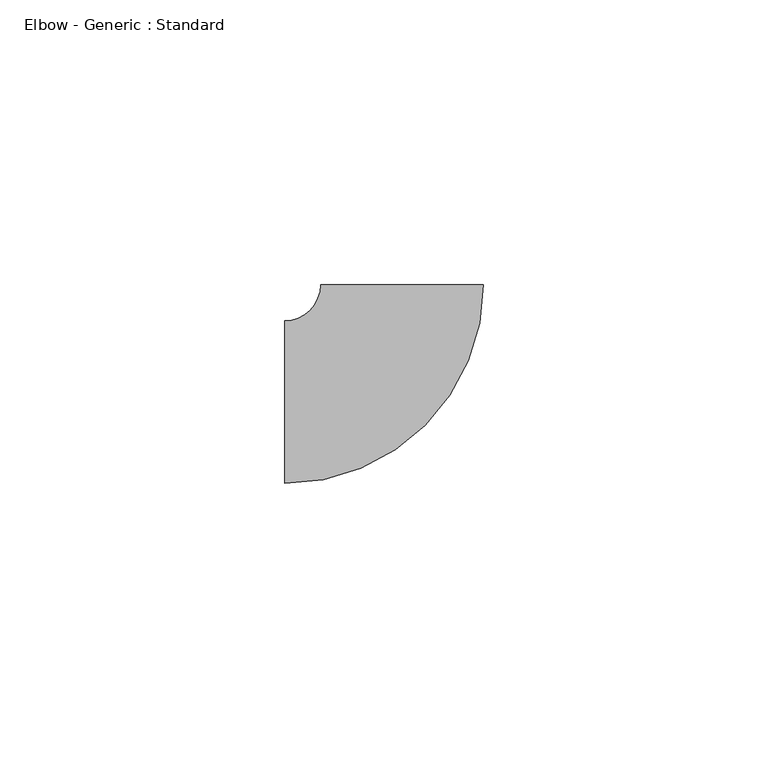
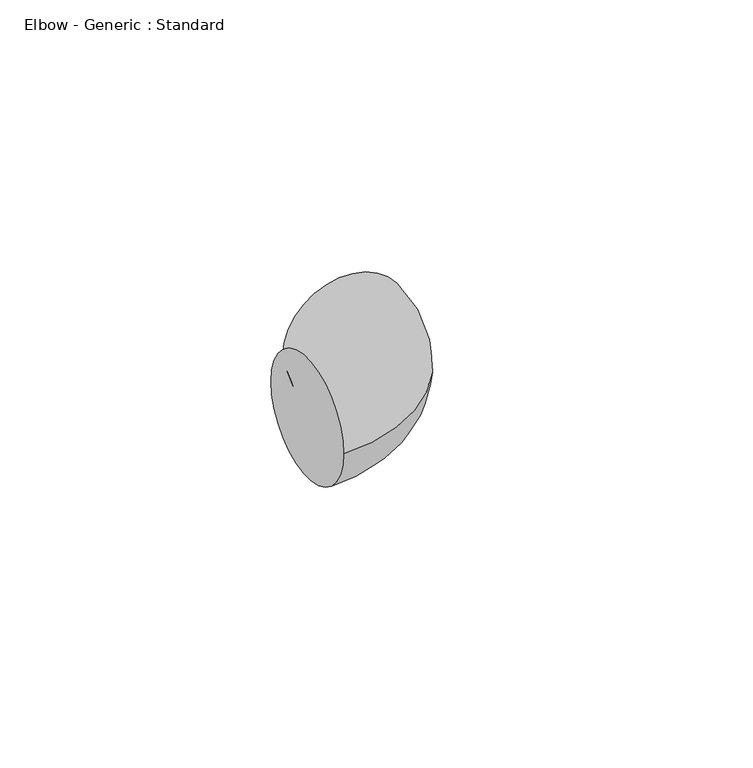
"""IFC4 building model written with IfcOpenShell, lengths in millimetres: pipe fitting geometry, Elbow - Generic : Standard."""

from ifc_helpers import new_model, si_unit, point, frame, origin, place, context, project, spatial, circle_curve, ellipse_curve, trimmed, source, transform, mapped, element, save
from ifc_brep_helpers import plane_surface, revolved_surface, advanced_brep


def elbow_generic_standard_3179f303(model_context):
    return source(origin(), model_context, "Body", "AdvancedBrep", [
        advanced_brep(
        [(-20.6418645, -14.2875, 0.0), (-20.6418645, 14.2875, 0.0), (14.2831347, 20.6448853, 0.0), (-14.2918646, 20.6388428, 0.0)],
        [
            (0, 1, circle_curve(frame((-20.6418645, 0.0, 0.0), z_axis=(-1.0, 0.0, 0.0), x_axis=(0.0, 1.0, 0.0)), 14.2875)),
            (1, 0, circle_curve(frame((-20.6418645, 0.0, 0.0), z_axis=(-1.0, 0.0, 0.0), x_axis=(0.0, 1.0, 0.0)), 14.2875)),
            (2, 3, circle_curve(frame((-0.0043649, 20.641864, 0.0), z_axis=(-0.00021146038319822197, 0.9999999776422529, 0.0), x_axis=(-0.9999999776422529, -0.00021146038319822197, 0.0)), 14.2875)),
            (3, 2, circle_curve(frame((-0.0043649, 20.641864, 0.0), z_axis=(-0.00021146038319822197, 0.9999999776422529, 0.0), x_axis=(-0.9999999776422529, -0.00021146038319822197, 0.0)), 14.2875)),
            (3, 1, circle_curve(frame((-20.6418645, 20.6375, 0.0), z_axis=(0.0, 0.0, -1.0), x_axis=(0.0, -1.0, 0.0)), 6.35)),
            (0, 2, circle_curve(frame((-20.6418645, 20.6375, 0.0), z_axis=(0.0, 0.0, 1.0), x_axis=(0.0, -1.0, 0.0)), 34.925)),
        ],
        [
            plane_surface(frame((-20.6418645, 0.0, 0.0), z_axis=(-1.0, 0.0, 0.0), x_axis=(0.0, 0.0, 1.0))),
            plane_surface(frame((-0.0043649, 20.641864, 0.0), z_axis=(-0.00021146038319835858, 0.999999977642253, 0.0), x_axis=(0.0, 0.0, 1.0))),
            revolved_surface(trimmed(ellipse_curve(frame((-20.6418645, 0.0, 0.0), z_axis=(-1.0, 0.0, 0.0), x_axis=(0.0, 1.0, 0.0)), 14.2875, 14.2875), [point((-20.6418645, -14.2875, 0.0))], [point((-20.6418645, 14.2875, 0.0))], True, "CARTESIAN"), (-20.6418645, 20.6375, 0.0), (0.0, 0.0, 1.0)),
            revolved_surface(trimmed(ellipse_curve(frame((-20.6418645, 0.0, 0.0), z_axis=(-1.0, 0.0, 0.0), x_axis=(0.0, 1.0, 0.0)), 14.2875, 14.2875), [point((-20.6418645, 14.2875, 0.0))], [point((-20.6418645, -14.2875, 0.0))], True, "CARTESIAN"), (-20.6418645, 20.6375, 0.0), (0.0, 0.0, 1.0)),
        ],
        [
            (0, [[1, 2]]),
            (1, [[3, 4]]),
            (2, [[5, -1, 6, -4]]),
            (3, [[-6, -2, -5, -3]]),
        ],
    ),
    ])


if __name__ == "__main__":
    model = new_model("IFC4")
    model_context = context("Model", 3, world=origin())
    ifc_project = project(units=[si_unit("LENGTHUNIT", "METRE", prefix="MILLI")], contexts=[model_context])
    site = spatial("IfcSite", under=ifc_project)
    building = spatial("IfcBuilding", under=site)
    placement = place(None, origin())
    elbow_generic_standard_shape = elbow_generic_standard_3179f303(model_context)
    element("IfcPipeFitting", 1, ObjectType="Elbow - Generic : Standard", at=placement, inside=building, context=model_context, shape_type="MappedRepresentation", body=[
        mapped(elbow_generic_standard_shape, transform((0.0, 0.0, 0.0), x_axis=(1.0, 0.0, 0.0), y_axis=(0.0, 1.0, 0.0), z_axis=(0.0, 0.0, 1.0))),
    ])
    save(model, "model.ifc")
